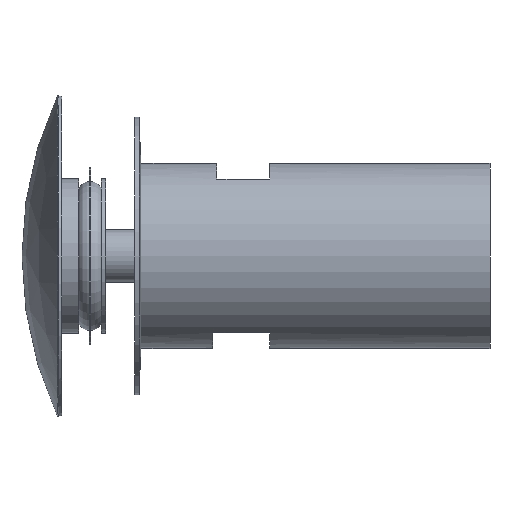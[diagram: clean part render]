
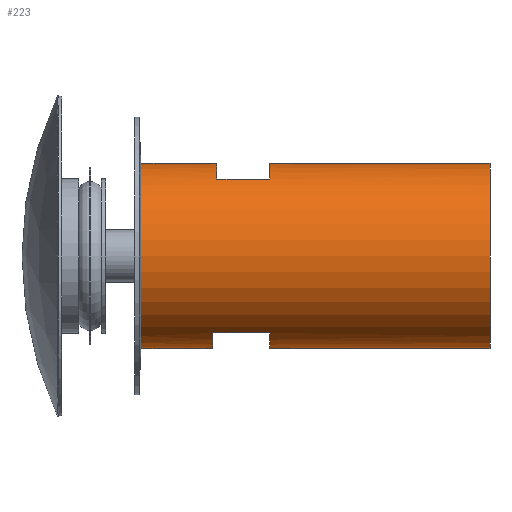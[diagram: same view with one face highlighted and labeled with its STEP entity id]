
A CAD part, left-side view. The second image highlights one B-rep face of the part: STEP entity #223.
In plain terms, the highlighted cylindrical face has radius 20.7 mm (diameter 41.4 mm), a partial arc.
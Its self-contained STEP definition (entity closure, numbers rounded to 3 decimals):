
#5 = AXIS2_PLACEMENT_3D ( 'NONE', #1624, #20, #1781 ) ;
#8 = EDGE_CURVE ( 'NONE', #564, #316, #1109, .T. ) ;
#20 = DIRECTION ( 'NONE',  ( 0., 1., 0. ) ) ;
#23 = CARTESIAN_POINT ( 'NONE',  ( 0., -6.467, 20.7 ) ) ;
#30 = VECTOR ( 'NONE', #100, 1000. ) ;
#48 = DIRECTION ( 'NONE',  ( 0., -1., 0. ) ) ;
#55 = LINE ( 'NONE', #1373, #1288 ) ;
#81 = FACE_OUTER_BOUND ( 'NONE', #1755, .T. ) ;
#96 = DIRECTION ( 'NONE',  ( 0., 1., 0. ) ) ;
#100 = DIRECTION ( 'NONE',  ( 0., 1., 0. ) ) ;
#130 = CARTESIAN_POINT ( 'NONE',  ( 0., 0., 20.7 ) ) ;
#139 = VERTEX_POINT ( 'NONE', #1587 ) ;
#159 = CARTESIAN_POINT ( 'NONE',  ( 0., 0., -20.7 ) ) ;
#178 = EDGE_CURVE ( 'NONE', #1242, #139, #1894, .T. ) ;
#184 = ORIENTED_EDGE ( 'NONE', *, *, #8, .T. ) ;
#187 = VECTOR ( 'NONE', #1762, 1000. ) ;
#223 = ADVANCED_FACE ( 'NONE', ( #81 ), #264, .T. ) ;
#228 = CARTESIAN_POINT ( 'NONE',  ( 0., -55.722, 20.7 ) ) ;
#253 = CARTESIAN_POINT ( 'NONE',  ( 0., -6.467, 0. ) ) ;
#257 = CARTESIAN_POINT ( 'NONE',  ( 0., 5.383, 20.7 ) ) ;
#262 = CARTESIAN_POINT ( 'NONE',  ( 0., 5.383, 0. ) ) ;
#264 = CYLINDRICAL_SURFACE ( 'NONE', #1561, 20.7 ) ;
#298 = VERTEX_POINT ( 'NONE', #806 ) ;
#316 = VERTEX_POINT ( 'NONE', #228 ) ;
#375 = CARTESIAN_POINT ( 'NONE',  ( 0., -6.467, 0. ) ) ;
#376 = ORIENTED_EDGE ( 'NONE', *, *, #178, .F. ) ;
#381 = DIRECTION ( 'NONE',  ( 0., 1., 0. ) ) ;
#405 = EDGE_CURVE ( 'NONE', #1658, #920, #1126, .T. ) ;
#406 = CARTESIAN_POINT ( 'NONE',  ( 0., 6.282, 0. ) ) ;
#407 = AXIS2_PLACEMENT_3D ( 'NONE', #262, #1573, #567 ) ;
#409 = DIRECTION ( 'NONE',  ( 0., 0., 1. ) ) ;
#417 = ORIENTED_EDGE ( 'NONE', *, *, #483, .F. ) ;
#433 = CIRCLE ( 'NONE', #1598, 20.7 ) ;
#483 = EDGE_CURVE ( 'NONE', #1241, #1658, #55, .T. ) ;
#564 = VERTEX_POINT ( 'NONE', #1859 ) ;
#567 = DIRECTION ( 'NONE',  ( 0., 0., -1. ) ) ;
#593 = CARTESIAN_POINT ( 'NONE',  ( 0., 6.282, -20.7 ) ) ;
#619 = ORIENTED_EDGE ( 'NONE', *, *, #1394, .F. ) ;
#637 = CARTESIAN_POINT ( 'NONE',  ( 0., 22.378, 20.7 ) ) ;
#647 = CIRCLE ( 'NONE', #1533, 20.7 ) ;
#652 = AXIS2_PLACEMENT_3D ( 'NONE', #1319, #842, #409 ) ;
#658 = CARTESIAN_POINT ( 'NONE',  ( -11.517, 0., -17.2 ) ) ;
#665 = ORIENTED_EDGE ( 'NONE', *, *, #666, .F. ) ;
#666 = EDGE_CURVE ( 'NONE', #298, #1242, #433, .T. ) ;
#694 = DIRECTION ( 'NONE',  ( 0., 0., -1. ) ) ;
#704 = DIRECTION ( 'NONE',  ( 0., 1., 0. ) ) ;
#735 = DIRECTION ( 'NONE',  ( 0., 1., 0. ) ) ;
#736 = VERTEX_POINT ( 'NONE', #257 ) ;
#752 = ORIENTED_EDGE ( 'NONE', *, *, #1013, .T. ) ;
#765 = ORIENTED_EDGE ( 'NONE', *, *, #1780, .F. ) ;
#772 = CARTESIAN_POINT ( 'NONE',  ( -11.517, 5.383, 17.2 ) ) ;
#791 = VERTEX_POINT ( 'NONE', #1759 ) ;
#806 = CARTESIAN_POINT ( 'NONE',  ( 0., -6.467, -20.7 ) ) ;
#824 = VECTOR ( 'NONE', #1338, 1000. ) ;
#827 = DIRECTION ( 'NONE',  ( 0., 1., 0. ) ) ;
#842 = DIRECTION ( 'NONE',  ( 0., 1., 0. ) ) ;
#920 = VERTEX_POINT ( 'NONE', #23 ) ;
#926 = EDGE_CURVE ( 'NONE', #952, #791, #1754, .T. ) ;
#952 = VERTEX_POINT ( 'NONE', #593 ) ;
#956 = DIRECTION ( 'NONE',  ( 0., 0., 1. ) ) ;
#1013 = EDGE_CURVE ( 'NONE', #316, #920, #1452, .T. ) ;
#1018 = AXIS2_PLACEMENT_3D ( 'NONE', #375, #96, #1258 ) ;
#1072 = CARTESIAN_POINT ( 'NONE',  ( -11.517, -6.467, -17.2 ) ) ;
#1109 = CIRCLE ( 'NONE', #5, 20.7 ) ;
#1126 = CIRCLE ( 'NONE', #1018, 20.7 ) ;
#1165 = ORIENTED_EDGE ( 'NONE', *, *, #405, .F. ) ;
#1172 = CARTESIAN_POINT ( 'NONE',  ( 0., 0., -20.7 ) ) ;
#1241 = VERTEX_POINT ( 'NONE', #772 ) ;
#1242 = VERTEX_POINT ( 'NONE', #1072 ) ;
#1257 = VERTEX_POINT ( 'NONE', #637 ) ;
#1258 = DIRECTION ( 'NONE',  ( 0., 0., 1. ) ) ;
#1259 = CARTESIAN_POINT ( 'NONE',  ( 0., 0., 0. ) ) ;
#1286 = ORIENTED_EDGE ( 'NONE', *, *, #1745, .F. ) ;
#1288 = VECTOR ( 'NONE', #48, 1000. ) ;
#1319 = CARTESIAN_POINT ( 'NONE',  ( 0., 22.378, 0. ) ) ;
#1338 = DIRECTION ( 'NONE',  ( 0., 1., 0. ) ) ;
#1373 = CARTESIAN_POINT ( 'NONE',  ( -11.517, 0., 17.2 ) ) ;
#1385 = ORIENTED_EDGE ( 'NONE', *, *, #1861, .T. ) ;
#1394 = EDGE_CURVE ( 'NONE', #139, #952, #647, .T. ) ;
#1447 = DIRECTION ( 'NONE',  ( 0., -1., 0. ) ) ;
#1452 = LINE ( 'NONE', #1645, #824 ) ;
#1475 = EDGE_CURVE ( 'NONE', #736, #1241, #1742, .T. ) ;
#1495 = VECTOR ( 'NONE', #735, 1000. ) ;
#1500 = LINE ( 'NONE', #130, #1662 ) ;
#1523 = ORIENTED_EDGE ( 'NONE', *, *, #1475, .F. ) ;
#1533 = AXIS2_PLACEMENT_3D ( 'NONE', #406, #1447, #694 ) ;
#1561 = AXIS2_PLACEMENT_3D ( 'NONE', #1259, #381, #956 ) ;
#1573 = DIRECTION ( 'NONE',  ( 0., -1., 0. ) ) ;
#1587 = CARTESIAN_POINT ( 'NONE',  ( -11.517, 6.282, -17.2 ) ) ;
#1598 = AXIS2_PLACEMENT_3D ( 'NONE', #253, #827, #1730 ) ;
#1602 = LINE ( 'NONE', #159, #1495 ) ;
#1624 = CARTESIAN_POINT ( 'NONE',  ( 0., -55.722, 0. ) ) ;
#1645 = CARTESIAN_POINT ( 'NONE',  ( 0., 0., 20.7 ) ) ;
#1658 = VERTEX_POINT ( 'NONE', #1660 ) ;
#1660 = CARTESIAN_POINT ( 'NONE',  ( -11.517, -6.467, 17.2 ) ) ;
#1662 = VECTOR ( 'NONE', #704, 1000. ) ;
#1674 = ORIENTED_EDGE ( 'NONE', *, *, #926, .F. ) ;
#1730 = DIRECTION ( 'NONE',  ( 0., 0., 1. ) ) ;
#1742 = CIRCLE ( 'NONE', #407, 20.7 ) ;
#1745 = EDGE_CURVE ( 'NONE', #564, #298, #1602, .T. ) ;
#1754 = LINE ( 'NONE', #1172, #187 ) ;
#1755 = EDGE_LOOP ( 'NONE', ( #1286, #184, #752, #1165, #417, #1523, #1385, #765, #1674, #619, #376, #665 ) ) ;
#1756 = CIRCLE ( 'NONE', #652, 20.7 ) ;
#1759 = CARTESIAN_POINT ( 'NONE',  ( 0., 22.378, -20.7 ) ) ;
#1762 = DIRECTION ( 'NONE',  ( 0., 1., 0. ) ) ;
#1780 = EDGE_CURVE ( 'NONE', #791, #1257, #1756, .T. ) ;
#1781 = DIRECTION ( 'NONE',  ( 0., 0., 1. ) ) ;
#1859 = CARTESIAN_POINT ( 'NONE',  ( 0., -55.722, -20.7 ) ) ;
#1861 = EDGE_CURVE ( 'NONE', #736, #1257, #1500, .T. ) ;
#1894 = LINE ( 'NONE', #658, #30 ) ;
